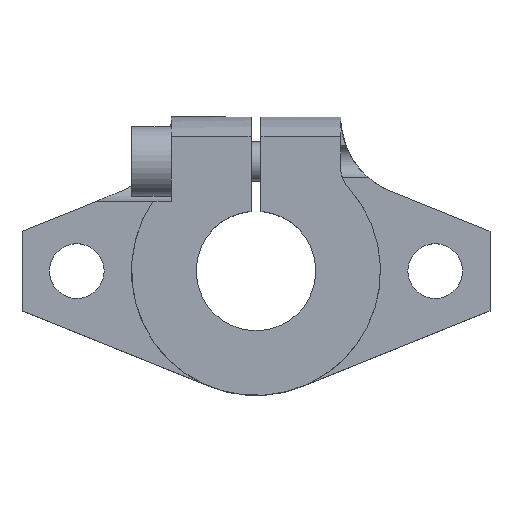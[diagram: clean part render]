
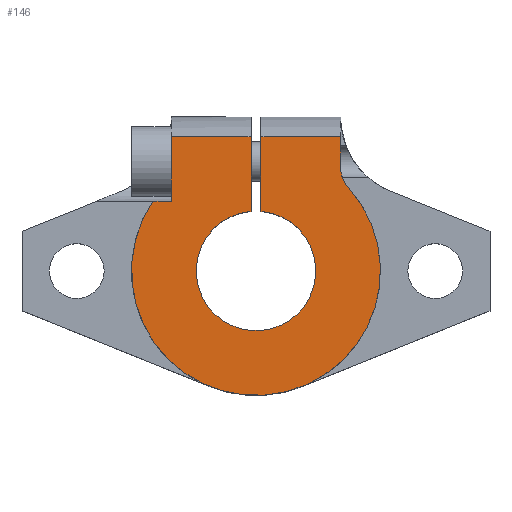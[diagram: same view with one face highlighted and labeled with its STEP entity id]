
A CAD part, top view. The second image highlights one B-rep face of the part: STEP entity #146.
In plain terms, the highlighted planar face has unit normal (0, 0, 1).
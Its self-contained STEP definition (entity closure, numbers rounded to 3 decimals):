
#146=ADVANCED_FACE('',(#222),#223,.T.);
#222=FACE_OUTER_BOUND('',#325,.T.);
#223=PLANE('',#326);
#325=EDGE_LOOP('',(#570,#571,#572,#573,#574,#575,#576,#577,#578,#579));
#326=AXIS2_PLACEMENT_3D('',#580,#581,#582);
#570=ORIENTED_EDGE('',*,*,#774,.F.);
#571=ORIENTED_EDGE('',*,*,#783,.T.);
#572=ORIENTED_EDGE('',*,*,#775,.F.);
#573=ORIENTED_EDGE('',*,*,#778,.F.);
#574=ORIENTED_EDGE('',*,*,#732,.F.);
#575=ORIENTED_EDGE('',*,*,#709,.T.);
#576=ORIENTED_EDGE('',*,*,#738,.F.);
#577=ORIENTED_EDGE('',*,*,#741,.F.);
#578=ORIENTED_EDGE('',*,*,#746,.F.);
#579=ORIENTED_EDGE('',*,*,#750,.F.);
#580=CARTESIAN_POINT('',(12.5,29.0,6.0));
#581=DIRECTION('',(-0.0,0.,1.0));
#582=DIRECTION('',(1.0,0.0,0.0));
#709=EDGE_CURVE('',#815,#813,#816,.T.);
#732=EDGE_CURVE('',#815,#857,#858,.T.);
#738=EDGE_CURVE('',#867,#813,#868,.T.);
#741=EDGE_CURVE('',#870,#867,#872,.T.);
#746=EDGE_CURVE('',#880,#870,#882,.F.);
#750=EDGE_CURVE('',#886,#880,#888,.T.);
#774=EDGE_CURVE('',#925,#886,#927,.T.);
#775=EDGE_CURVE('',#928,#929,#930,.T.);
#778=EDGE_CURVE('',#857,#928,#933,.T.);
#783=EDGE_CURVE('',#925,#929,#939,.T.);
#813=VERTEX_POINT('',#993);
#815=VERTEX_POINT('',#995);
#816=LINE('',#996,#997);
#857=VERTEX_POINT('',#1097);
#858=LINE('',#1098,#1099);
#867=VERTEX_POINT('',#1111);
#868=LINE('',#1112,#1113);
#870=VERTEX_POINT('',#1116);
#872=LINE('',#1119,#1120);
#880=VERTEX_POINT('',#1129);
#882=CIRCLE('',#1132,12.5);
#886=VERTEX_POINT('',#1137);
#888=CIRCLE('',#1140,3.0);
#925=VERTEX_POINT('',#1193);
#927=LINE('',#1195,#1196);
#928=VERTEX_POINT('',#1197);
#929=VERTEX_POINT('',#1198);
#930=LINE('',#1199,#1200);
#933=CIRCLE('',#1204,6.0);
#939=LINE('',#1213,#1214);
#993=CARTESIAN_POINT('',(-8.5,13.5,6.0));
#995=CARTESIAN_POINT('',(-0.5,13.5,6.0));
#996=CARTESIAN_POINT('',(46.238,13.5,6.0));
#997=VECTOR('',#1312,1.0);
#1097=CARTESIAN_POINT('',(-0.5,5.979,6.0));
#1098=CARTESIAN_POINT('',(-0.5,15.5,6.0));
#1099=VECTOR('',#1349,1.0);
#1111=CARTESIAN_POINT('',(-8.5,7.,6.0));
#1112=CARTESIAN_POINT('',(-8.5,7.,6.0));
#1113=VECTOR('',#1359,1.0);
#1116=CARTESIAN_POINT('',(-10.356,7.,6.0));
#1119=CARTESIAN_POINT('',(-10.356,7.,6.0));
#1120=VECTOR('',#1362,1.0);
#1129=CARTESIAN_POINT('',(9.274,8.381,6.0));
#1132=AXIS2_PLACEMENT_3D('',#1371,#1372,#1373);
#1137=CARTESIAN_POINT('',(8.5,10.392,6.0));
#1140=AXIS2_PLACEMENT_3D('',#1379,#1380,#1381);
#1193=CARTESIAN_POINT('',(8.5,13.5,6.0));
#1195=CARTESIAN_POINT('',(8.5,15.5,6.0));
#1196=VECTOR('',#1419,1.0);
#1197=CARTESIAN_POINT('',(0.5,5.979,6.0));
#1198=CARTESIAN_POINT('',(0.5,13.5,6.0));
#1199=CARTESIAN_POINT('',(0.5,5.979,6.0));
#1200=VECTOR('',#1420,1.0);
#1204=AXIS2_PLACEMENT_3D('',#1425,#1426,#1427);
#1213=CARTESIAN_POINT('',(46.238,13.5,6.0));
#1214=VECTOR('',#1434,1.0);
#1312=DIRECTION('',(-1.0,0.0,0.0));
#1349=DIRECTION('',(0.,-1.0,0.));
#1359=DIRECTION('',(0.0,1.0,0.));
#1362=DIRECTION('',(1.0,0.,0.));
#1371=CARTESIAN_POINT('',(0.,0.,6.0));
#1372=DIRECTION('',(0.0,0.,1.0));
#1373=DIRECTION('',(0.0,-1.0,0.));
#1379=CARTESIAN_POINT('',(11.5,10.392,6.0));
#1380=DIRECTION('',(0.0,0.,1.0));
#1381=DIRECTION('',(0.0,-1.0,0.));
#1419=DIRECTION('',(0.,-1.0,0.));
#1420=DIRECTION('',(0.,1.0,0.));
#1425=CARTESIAN_POINT('',(0.,0.,6.0));
#1426=DIRECTION('',(0.0,0.,1.0));
#1427=DIRECTION('',(0.0,-1.0,0.));
#1434=DIRECTION('',(-1.0,0.0,0.0));
